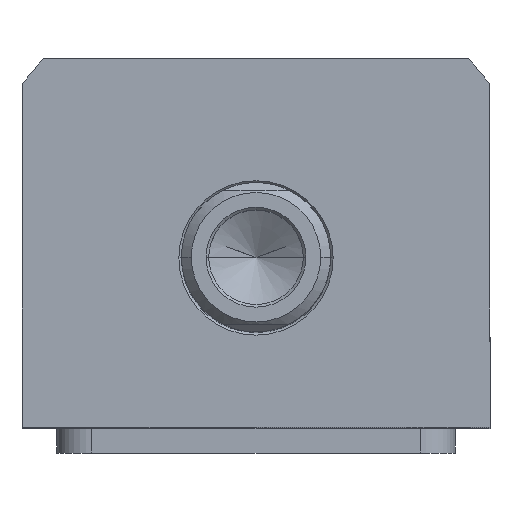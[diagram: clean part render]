
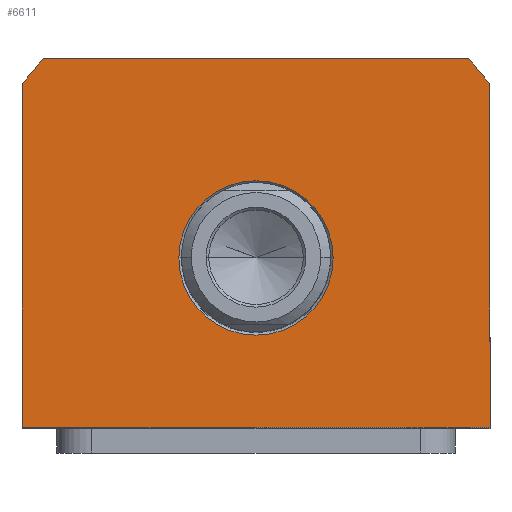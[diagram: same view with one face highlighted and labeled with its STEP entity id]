
A CAD part, top view. The second image highlights one B-rep face of the part: STEP entity #6611.
In plain terms, the highlighted planar face has unit normal (0, 0, 1).
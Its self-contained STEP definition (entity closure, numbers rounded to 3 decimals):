
#164 = CARTESIAN_POINT ( 'NONE',  ( 0., 0., 75. ) ) ;
#267 = DIRECTION ( 'NONE',  ( 0., 0., 1. ) ) ;
#631 = EDGE_CURVE ( 'NONE', #6227, #5853, #987, .T. ) ;
#687 = AXIS2_PLACEMENT_3D ( 'NONE', #2999, #267, #2040 ) ;
#987 = CIRCLE ( 'NONE', #7619, 58.5 ) ;
#1174 = ORIENTED_EDGE ( 'NONE', *, *, #631, .T. ) ;
#1315 = CARTESIAN_POINT ( 'NONE',  ( 42.688, 40., 75. ) ) ;
#1328 = CARTESIAN_POINT ( 'NONE',  ( 47., 34.832, 75. ) ) ;
#1364 = CARTESIAN_POINT ( 'NONE',  ( -42.688, 40., 75. ) ) ;
#1767 = LINE ( 'NONE', #1364, #3634 ) ;
#1833 = VERTEX_POINT ( 'NONE', #3537 ) ;
#1934 = FACE_BOUND ( 'NONE', #9223, .T. ) ;
#2040 = DIRECTION ( 'NONE',  ( 1., 0., 0. ) ) ;
#2518 = VERTEX_POINT ( 'NONE', #9398 ) ;
#2999 = CARTESIAN_POINT ( 'NONE',  ( 0., 0., 75. ) ) ;
#3135 = CARTESIAN_POINT ( 'NONE',  ( 47., -34., 75. ) ) ;
#3175 = ORIENTED_EDGE ( 'NONE', *, *, #7223, .T. ) ;
#3537 = CARTESIAN_POINT ( 'NONE',  ( -42.688, 40., 75. ) ) ;
#3634 = VECTOR ( 'NONE', #7817, 1000. ) ;
#3714 = DIRECTION ( 'NONE',  ( 0., 0., 1. ) ) ;
#3734 = ORIENTED_EDGE ( 'NONE', *, *, #9054, .T. ) ;
#4184 = CARTESIAN_POINT ( 'NONE',  ( -47., -34., 75. ) ) ;
#4657 = DIRECTION ( 'NONE',  ( 1., 0., 0. ) ) ;
#4687 = LINE ( 'NONE', #3135, #10546 ) ;
#4878 = EDGE_LOOP ( 'NONE', ( #8144, #4930, #1174, #7795, #3734, #3175 ) ) ;
#4894 = CARTESIAN_POINT ( 'NONE',  ( 0., 0., 75. ) ) ;
#4930 = ORIENTED_EDGE ( 'NONE', *, *, #7997, .T. ) ;
#5134 = ORIENTED_EDGE ( 'NONE', *, *, #11631, .T. ) ;
#5367 = CARTESIAN_POINT ( 'NONE',  ( 15.5, 0., 75. ) ) ;
#5556 = DIRECTION ( 'NONE',  ( 1., 0., 0. ) ) ;
#5681 = DIRECTION ( 'NONE',  ( 0., 0., 1. ) ) ;
#5710 = VECTOR ( 'NONE', #10703, 1000. ) ;
#5775 = AXIS2_PLACEMENT_3D ( 'NONE', #6273, #9135, #4657 ) ;
#5853 = VERTEX_POINT ( 'NONE', #1315 ) ;
#6227 = VERTEX_POINT ( 'NONE', #9515 ) ;
#6273 = CARTESIAN_POINT ( 'NONE',  ( 0., 0., 75. ) ) ;
#6427 = FACE_OUTER_BOUND ( 'NONE', #4878, .T. ) ;
#6611 = ADVANCED_FACE ( 'NONE', ( #1934, #6427 ), #8294, .T. ) ;
#6729 = CARTESIAN_POINT ( 'NONE',  ( -47., -34., 75. ) ) ;
#6878 = EDGE_CURVE ( 'NONE', #10939, #2518, #4687, .T. ) ;
#6963 = CIRCLE ( 'NONE', #687, 58.5 ) ;
#7223 = EDGE_CURVE ( 'NONE', #7907, #10939, #10845, .T. ) ;
#7619 = AXIS2_PLACEMENT_3D ( 'NONE', #10232, #3714, #10147 ) ;
#7622 = VERTEX_POINT ( 'NONE', #11681 ) ;
#7659 = EDGE_CURVE ( 'NONE', #7622, #8452, #10701, .T. ) ;
#7795 = ORIENTED_EDGE ( 'NONE', *, *, #11868, .T. ) ;
#7817 = DIRECTION ( 'NONE',  ( -1., 0., 0. ) ) ;
#7907 = VERTEX_POINT ( 'NONE', #10300 ) ;
#7997 = EDGE_CURVE ( 'NONE', #2518, #6227, #10269, .T. ) ;
#8069 = ORIENTED_EDGE ( 'NONE', *, *, #7659, .T. ) ;
#8144 = ORIENTED_EDGE ( 'NONE', *, *, #6878, .T. ) ;
#8294 = PLANE ( 'NONE',  #8423 ) ;
#8423 = AXIS2_PLACEMENT_3D ( 'NONE', #164, #5681, #5556 ) ;
#8452 = VERTEX_POINT ( 'NONE', #5367 ) ;
#8572 = DIRECTION ( 'NONE',  ( 0., 0., -1. ) ) ;
#9054 = EDGE_CURVE ( 'NONE', #1833, #7907, #6963, .T. ) ;
#9135 = DIRECTION ( 'NONE',  ( 0., 0., -1. ) ) ;
#9223 = EDGE_LOOP ( 'NONE', ( #5134, #8069 ) ) ;
#9398 = CARTESIAN_POINT ( 'NONE',  ( 47., -34., 75. ) ) ;
#9515 = CARTESIAN_POINT ( 'NONE',  ( 47., 34.832, 75. ) ) ;
#10147 = DIRECTION ( 'NONE',  ( 1., 0., 0. ) ) ;
#10232 = CARTESIAN_POINT ( 'NONE',  ( 0., 0., 75. ) ) ;
#10269 = LINE ( 'NONE', #1328, #11279 ) ;
#10300 = CARTESIAN_POINT ( 'NONE',  ( -47., 34.832, 75. ) ) ;
#10522 = CIRCLE ( 'NONE', #11853, 15.5 ) ;
#10546 = VECTOR ( 'NONE', #11430, 1000. ) ;
#10701 = CIRCLE ( 'NONE', #5775, 15.5 ) ;
#10703 = DIRECTION ( 'NONE',  ( 0., -1., 0. ) ) ;
#10845 = LINE ( 'NONE', #4184, #5710 ) ;
#10939 = VERTEX_POINT ( 'NONE', #6729 ) ;
#11279 = VECTOR ( 'NONE', #11311, 1000. ) ;
#11282 = DIRECTION ( 'NONE',  ( 1., 0., 0. ) ) ;
#11311 = DIRECTION ( 'NONE',  ( 0., 1., 0. ) ) ;
#11430 = DIRECTION ( 'NONE',  ( 1., 0., 0. ) ) ;
#11631 = EDGE_CURVE ( 'NONE', #8452, #7622, #10522, .T. ) ;
#11681 = CARTESIAN_POINT ( 'NONE',  ( -15.5, 0., 75. ) ) ;
#11853 = AXIS2_PLACEMENT_3D ( 'NONE', #4894, #8572, #11282 ) ;
#11868 = EDGE_CURVE ( 'NONE', #5853, #1833, #1767, .T. ) ;
